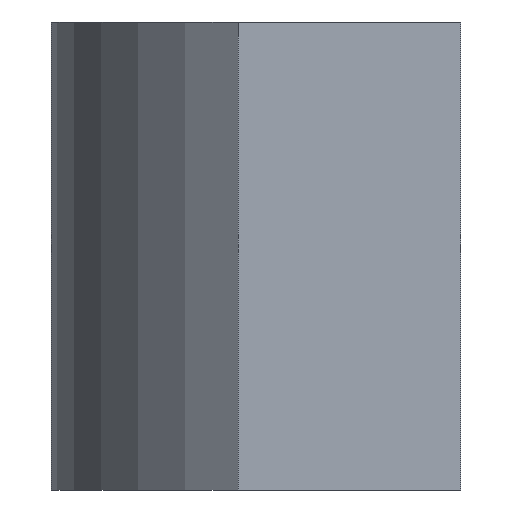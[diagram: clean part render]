
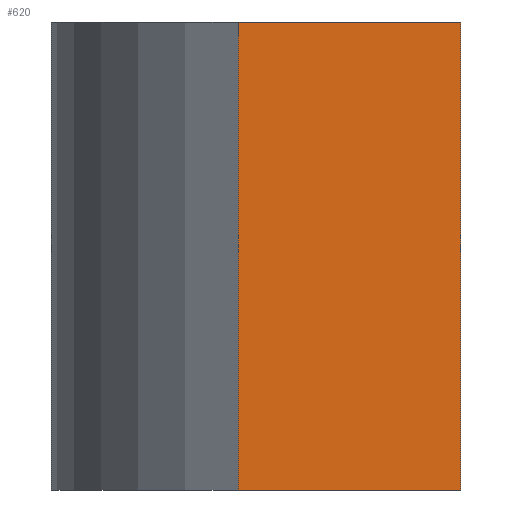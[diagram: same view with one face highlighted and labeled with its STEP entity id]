
A CAD part, left-side view. The second image highlights one B-rep face of the part: STEP entity #620.
In plain terms, the highlighted planar face has unit normal (-1, 0, 0).
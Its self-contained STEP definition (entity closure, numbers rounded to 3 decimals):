
#32 = PLANE('',#33);
#33 = AXIS2_PLACEMENT_3D('',#34,#35,#36);
#34 = CARTESIAN_POINT('',(0.,-4.625,0.));
#35 = DIRECTION('',(0.,0.,1.));
#36 = DIRECTION('',(1.,0.,-0.));
#86 = VERTEX_POINT('',#87);
#87 = CARTESIAN_POINT('',(-16.,0.375,0.));
#101 = PLANE('',#102);
#102 = AXIS2_PLACEMENT_3D('',#103,#104,#105);
#103 = CARTESIAN_POINT('',(-16.,0.375,0.));
#104 = DIRECTION('',(0.,1.,0.));
#105 = DIRECTION('',(0.,0.,1.));
#113 = EDGE_CURVE('',#114,#86,#116,.T.);
#114 = VERTEX_POINT('',#115);
#115 = CARTESIAN_POINT('',(-16.,-4.375,0.));
#116 = SURFACE_CURVE('',#117,(#121,#128),.PCURVE_S1.);
#117 = LINE('',#118,#119);
#118 = CARTESIAN_POINT('',(-16.,-9.625,0.));
#119 = VECTOR('',#120,1.);
#120 = DIRECTION('',(0.,1.,0.));
#121 = PCURVE('',#32,#122);
#122 = DEFINITIONAL_REPRESENTATION('',(#123),#127);
#123 = LINE('',#124,#125);
#124 = CARTESIAN_POINT('',(-16.,-5.));
#125 = VECTOR('',#126,1.);
#126 = DIRECTION('',(0.,1.));
#127 = ( GEOMETRIC_REPRESENTATION_CONTEXT(2) 
PARAMETRIC_REPRESENTATION_CONTEXT() REPRESENTATION_CONTEXT('2D SPACE',''
  ) );
#128 = PCURVE('',#129,#134);
#129 = PLANE('',#130);
#130 = AXIS2_PLACEMENT_3D('',#131,#132,#133);
#131 = CARTESIAN_POINT('',(-16.,-9.625,0.));
#132 = DIRECTION('',(1.,0.,0.));
#133 = DIRECTION('',(0.,0.,1.));
#134 = DEFINITIONAL_REPRESENTATION('',(#135),#139);
#135 = LINE('',#136,#137);
#136 = CARTESIAN_POINT('',(0.,0.));
#137 = VECTOR('',#138,1.);
#138 = DIRECTION('',(0.,-1.));
#139 = ( GEOMETRIC_REPRESENTATION_CONTEXT(2) 
PARAMETRIC_REPRESENTATION_CONTEXT() REPRESENTATION_CONTEXT('2D SPACE',''
  ) );
#157 = PLANE('',#158);
#158 = AXIS2_PLACEMENT_3D('',#159,#160,#161);
#159 = CARTESIAN_POINT('',(-24.,-4.375,0.));
#160 = DIRECTION('',(0.,1.,0.));
#161 = DIRECTION('',(0.,0.,1.));
#299 = PLANE('',#300);
#300 = AXIS2_PLACEMENT_3D('',#301,#302,#303);
#301 = CARTESIAN_POINT('',(-16.,-9.625,10.));
#302 = DIRECTION('',(0.,0.,1.));
#303 = DIRECTION('',(1.,0.,0.));
#545 = EDGE_CURVE('',#114,#546,#548,.T.);
#546 = VERTEX_POINT('',#547);
#547 = CARTESIAN_POINT('',(-16.,-4.375,10.));
#548 = SURFACE_CURVE('',#549,(#553,#560),.PCURVE_S1.);
#549 = LINE('',#550,#551);
#550 = CARTESIAN_POINT('',(-16.,-4.375,0.));
#551 = VECTOR('',#552,1.);
#552 = DIRECTION('',(0.,0.,1.));
#553 = PCURVE('',#157,#554);
#554 = DEFINITIONAL_REPRESENTATION('',(#555),#559);
#555 = LINE('',#556,#557);
#556 = CARTESIAN_POINT('',(0.,8.));
#557 = VECTOR('',#558,1.);
#558 = DIRECTION('',(1.,0.));
#559 = ( GEOMETRIC_REPRESENTATION_CONTEXT(2) 
PARAMETRIC_REPRESENTATION_CONTEXT() REPRESENTATION_CONTEXT('2D SPACE',''
  ) );
#560 = PCURVE('',#129,#561);
#561 = DEFINITIONAL_REPRESENTATION('',(#562),#566);
#562 = LINE('',#563,#564);
#563 = CARTESIAN_POINT('',(0.,-5.25));
#564 = VECTOR('',#565,1.);
#565 = DIRECTION('',(1.,0.));
#566 = ( GEOMETRIC_REPRESENTATION_CONTEXT(2) 
PARAMETRIC_REPRESENTATION_CONTEXT() REPRESENTATION_CONTEXT('2D SPACE',''
  ) );
#620 = ADVANCED_FACE('',(#621),#129,.F.);
#621 = FACE_BOUND('',#622,.F.);
#622 = EDGE_LOOP('',(#623,#646,#647,#648));
#623 = ORIENTED_EDGE('',*,*,#624,.F.);
#624 = EDGE_CURVE('',#546,#625,#627,.T.);
#625 = VERTEX_POINT('',#626);
#626 = CARTESIAN_POINT('',(-16.,0.375,10.));
#627 = SURFACE_CURVE('',#628,(#632,#639),.PCURVE_S1.);
#628 = LINE('',#629,#630);
#629 = CARTESIAN_POINT('',(-16.,-9.625,10.));
#630 = VECTOR('',#631,1.);
#631 = DIRECTION('',(0.,1.,0.));
#632 = PCURVE('',#129,#633);
#633 = DEFINITIONAL_REPRESENTATION('',(#634),#638);
#634 = LINE('',#635,#636);
#635 = CARTESIAN_POINT('',(10.,0.));
#636 = VECTOR('',#637,1.);
#637 = DIRECTION('',(0.,-1.));
#638 = ( GEOMETRIC_REPRESENTATION_CONTEXT(2) 
PARAMETRIC_REPRESENTATION_CONTEXT() REPRESENTATION_CONTEXT('2D SPACE',''
  ) );
#639 = PCURVE('',#299,#640);
#640 = DEFINITIONAL_REPRESENTATION('',(#641),#645);
#641 = LINE('',#642,#643);
#642 = CARTESIAN_POINT('',(0.,0.));
#643 = VECTOR('',#644,1.);
#644 = DIRECTION('',(0.,1.));
#645 = ( GEOMETRIC_REPRESENTATION_CONTEXT(2) 
PARAMETRIC_REPRESENTATION_CONTEXT() REPRESENTATION_CONTEXT('2D SPACE',''
  ) );
#646 = ORIENTED_EDGE('',*,*,#545,.F.);
#647 = ORIENTED_EDGE('',*,*,#113,.T.);
#648 = ORIENTED_EDGE('',*,*,#649,.T.);
#649 = EDGE_CURVE('',#86,#625,#650,.T.);
#650 = SURFACE_CURVE('',#651,(#655,#662),.PCURVE_S1.);
#651 = LINE('',#652,#653);
#652 = CARTESIAN_POINT('',(-16.,0.375,0.));
#653 = VECTOR('',#654,1.);
#654 = DIRECTION('',(0.,0.,1.));
#655 = PCURVE('',#129,#656);
#656 = DEFINITIONAL_REPRESENTATION('',(#657),#661);
#657 = LINE('',#658,#659);
#658 = CARTESIAN_POINT('',(0.,-10.));
#659 = VECTOR('',#660,1.);
#660 = DIRECTION('',(1.,0.));
#661 = ( GEOMETRIC_REPRESENTATION_CONTEXT(2) 
PARAMETRIC_REPRESENTATION_CONTEXT() REPRESENTATION_CONTEXT('2D SPACE',''
  ) );
#662 = PCURVE('',#101,#663);
#663 = DEFINITIONAL_REPRESENTATION('',(#664),#668);
#664 = LINE('',#665,#666);
#665 = CARTESIAN_POINT('',(0.,0.));
#666 = VECTOR('',#667,1.);
#667 = DIRECTION('',(1.,0.));
#668 = ( GEOMETRIC_REPRESENTATION_CONTEXT(2) 
PARAMETRIC_REPRESENTATION_CONTEXT() REPRESENTATION_CONTEXT('2D SPACE',''
  ) );
